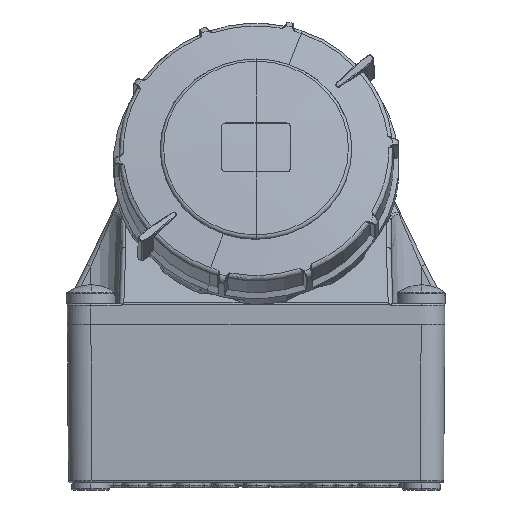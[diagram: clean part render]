
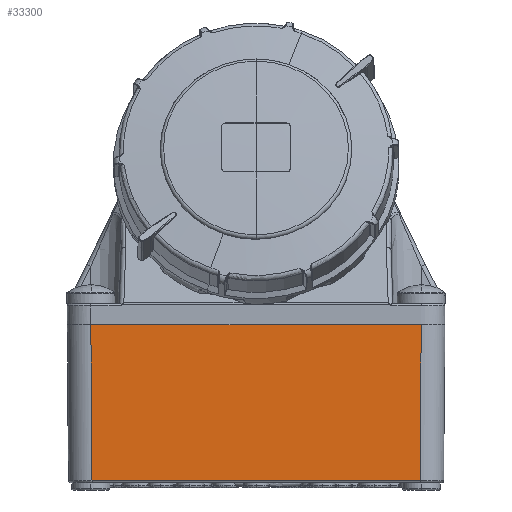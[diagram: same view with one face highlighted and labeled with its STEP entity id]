
A CAD part, left-side view. The second image highlights one B-rep face of the part: STEP entity #33300.
In plain terms, the highlighted planar face has unit normal (-1, 0, -0.007).
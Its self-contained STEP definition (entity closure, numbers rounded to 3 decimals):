
#263 = VERTEX_POINT ( 'NONE', #77716 ) ;
#3014 = VERTEX_POINT ( 'NONE', #34978 ) ;
#8118 = DIRECTION ( 'NONE',  ( 0., -1., 0. ) ) ;
#10857 = LINE ( 'NONE', #79925, #50864 ) ;
#16839 = AXIS2_PLACEMENT_3D ( 'NONE', #58315, #26475, #52041 ) ;
#19365 = EDGE_CURVE ( 'NONE', #61735, #263, #64144, .T. ) ;
#21314 = ORIENTED_EDGE ( 'NONE', *, *, #60201, .F. ) ;
#25740 = CARTESIAN_POINT ( 'NONE',  ( -130.007, 1200., 0.993 ) ) ;
#25791 = LINE ( 'NONE', #55980, #82074 ) ;
#26475 = DIRECTION ( 'NONE',  ( -1., 0., -0.007 ) ) ;
#29495 = CARTESIAN_POINT ( 'NONE',  ( -130.007, 1130.492, 0.993 ) ) ;
#31011 = EDGE_CURVE ( 'NONE', #51923, #61735, #71764, .T. ) ;
#32785 = PLANE ( 'NONE',  #16839 ) ;
#33300 = ADVANCED_FACE ( 'NONE', ( #71285 ), #32785, .T. ) ;
#34978 = CARTESIAN_POINT ( 'NONE',  ( -130.5, 1270., 67. ) ) ;
#38793 = CARTESIAN_POINT ( 'NONE',  ( -130.007, 1269.508, 0.993 ) ) ;
#41645 = VECTOR ( 'NONE', #58671, 1000. ) ;
#50864 = VECTOR ( 'NONE', #73261, 1000. ) ;
#51923 = VERTEX_POINT ( 'NONE', #38793 ) ;
#51987 = CARTESIAN_POINT ( 'NONE',  ( -130.496, 1130.004, 66.474 ) ) ;
#52041 = DIRECTION ( 'NONE',  ( -0.007, 0., 1. ) ) ;
#54166 = VECTOR ( 'NONE', #8118, 1000. ) ;
#55980 = CARTESIAN_POINT ( 'NONE',  ( -130.496, 1269.996, 66.474 ) ) ;
#58315 = CARTESIAN_POINT ( 'NONE',  ( -130.5, 1200., 66.996 ) ) ;
#58671 = DIRECTION ( 'NONE',  ( -0.007, -0.007, 1. ) ) ;
#59633 = ORIENTED_EDGE ( 'NONE', *, *, #19365, .T. ) ;
#60201 = EDGE_CURVE ( 'NONE', #3014, #263, #10857, .T. ) ;
#61735 = VERTEX_POINT ( 'NONE', #29495 ) ;
#64144 = LINE ( 'NONE', #51987, #41645 ) ;
#67558 = EDGE_CURVE ( 'NONE', #3014, #51923, #25791, .T. ) ;
#69146 = ORIENTED_EDGE ( 'NONE', *, *, #31011, .T. ) ;
#71285 = FACE_OUTER_BOUND ( 'NONE', #81110, .T. ) ;
#71764 = LINE ( 'NONE', #25740, #54166 ) ;
#73261 = DIRECTION ( 'NONE',  ( 0., -1., 0. ) ) ;
#77716 = CARTESIAN_POINT ( 'NONE',  ( -130.5, 1130., 67. ) ) ;
#79925 = CARTESIAN_POINT ( 'NONE',  ( -130.5, 1269.5, 67. ) ) ;
#81110 = EDGE_LOOP ( 'NONE', ( #82597, #69146, #59633, #21314 ) ) ;
#82074 = VECTOR ( 'NONE', #82322, 1000. ) ;
#82322 = DIRECTION ( 'NONE',  ( 0.007, -0.007, -1. ) ) ;
#82597 = ORIENTED_EDGE ( 'NONE', *, *, #67558, .T. ) ;
